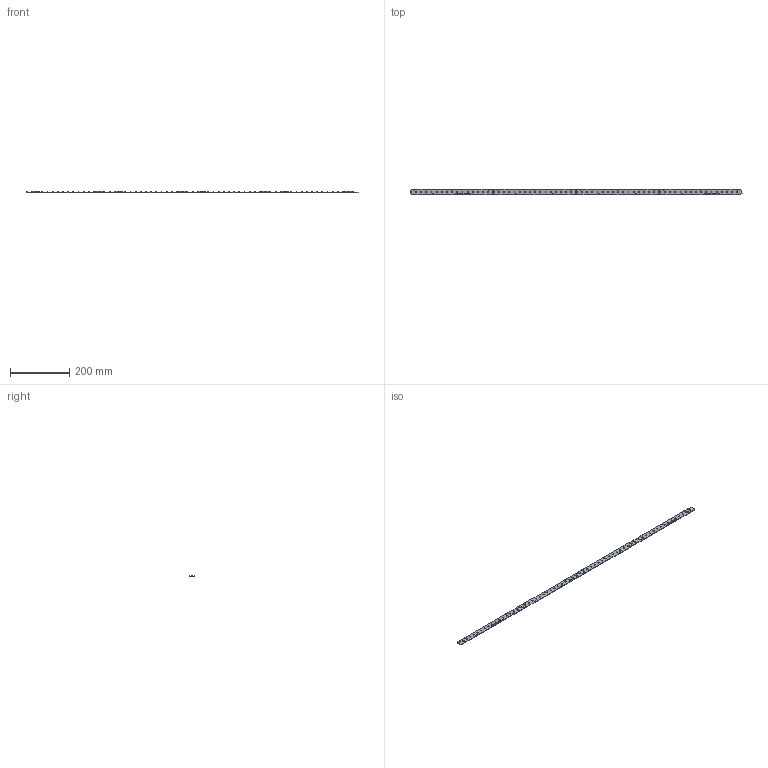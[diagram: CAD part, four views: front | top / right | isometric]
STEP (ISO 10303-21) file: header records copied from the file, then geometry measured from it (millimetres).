
FILE_DESCRIPTION (( 'STEP AP214' ), '1' );
FILE_NAME ('VB64 (L2-0355).step', '2025-11-18T19:08:30', ( '' ), ( '' ), 'SwSTEP 2.0', 'SolidWorks 2022', '' );
FILE_SCHEMA (( 'AUTOMOTIVE_DESIGN' ));
Length unit declared in the file: millimetre
Products named in the file (1): VB64 (L2-0355)
Bounding box: 1120.01 x 20.01 x 4.6 mm (x, y, z)
Volume: 36651.8 mm3; surface area: 51653.2 mm2
Topology: 103 solids, 103 shells, 972 faces, 2298 edges, 1532 vertices
Faces by surface type: plane 880, cylinder 92
Entity records: 28610 total; most frequent: CARTESIAN_POINT 4803, ORIENTED_EDGE 4596, DIRECTION 4428, EDGE_CURVE 2298, VECTOR 2114, LINE 2114, VERTEX_POINT 1532, AXIS2_PLACEMENT_3D 1157
